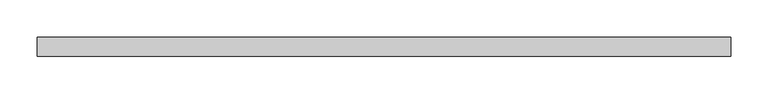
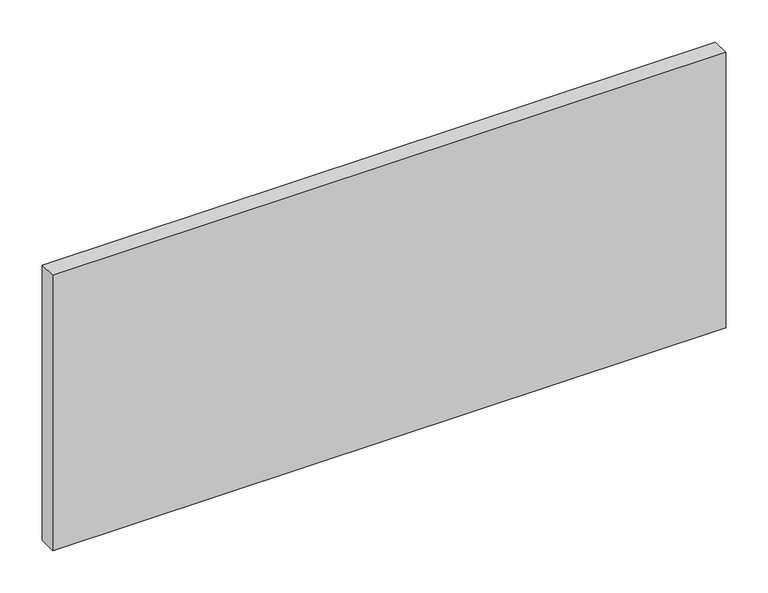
"""IFC4 building model written with IfcOpenShell, lengths in millimetres: plate geometry, Системная панель : С остеклением."""

from ifc_helpers import new_model, si_unit, origin, origin_with_axes, place, context, project, spatial, polyline, outline, extrude, source, transform, mapped, element, save


def plate_727ba623(model_context):
    return source(origin(), model_context, "Body", "SweptSolid", [
        extrude(outline(polyline([(462.5, -49.5), (-462.5, -49.5), (-462.5, -24.5), (462.5, -24.5), (462.5, -49.5)])), origin_with_axes(), (0.0, 0.0, 1.0), 400.0),
    ])


if __name__ == "__main__":
    model = new_model("IFC4")
    model_context = context("Model", 3, world=origin())
    ifc_project = project(units=[si_unit("LENGTHUNIT", "METRE", prefix="MILLI")], contexts=[model_context])
    site = spatial("IfcSite", under=ifc_project)
    building = spatial("IfcBuilding", under=site)
    placement = place(None, origin())
    plate_shape = plate_727ba623(model_context)
    element("IfcPlate", 1, ObjectType="Системная панель : С остеклением", at=placement, inside=building, context=model_context, shape_type="MappedRepresentation", body=[
        mapped(plate_shape, transform((0.0, 0.0, 0.0), x_axis=(1.0, 0.0, 0.0), y_axis=(0.0, 1.0, 0.0), z_axis=(0.0, 0.0, 1.0))),
    ])
    save(model, "model.ifc")
